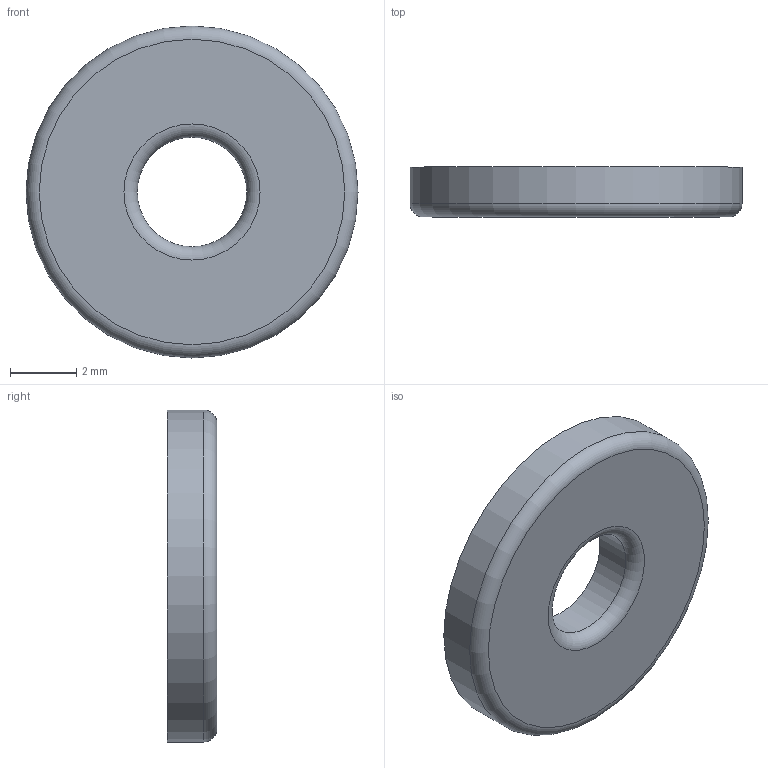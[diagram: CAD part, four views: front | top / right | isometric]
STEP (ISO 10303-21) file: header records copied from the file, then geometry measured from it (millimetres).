
FILE_DESCRIPTION(('Open CASCADE Model'),'2;1');
FILE_NAME('Open CASCADE Shape Model','2026-11-09T05:26:20',('Author'),( 'Open CASCADE'),'Open CASCADE STEP processor 8.0','build123d', 'Unknown');
FILE_SCHEMA(('AUTOMOTIVE_DESIGN { 1 0 10303 214 1 1 1 1 }'));
Length unit declared in the file: millimetre
Products named in the file (1): COMPOUND
Bounding box: 10 x 1.5 x 10 mm (x, y, z)
Volume: 103.5 mm3; surface area: 195.5 mm2
Topology: 1 solids, 1 shells, 6 faces, 10 edges, 6 vertices
Faces by surface type: cylinder 2, torus 2, plane 2
Full cylindrical faces by diameter (mm): 3.3 x1, 10 x1
Entity records: 286 total; most frequent: DIRECTION 48, CARTESIAN_POINT 47, ORIENTED_EDGE 20, PCURVE 20, DEFINITIONAL_REPRESENTATION 20, AXIS2_PLACEMENT_3D 15, LINE 14, VECTOR 14
